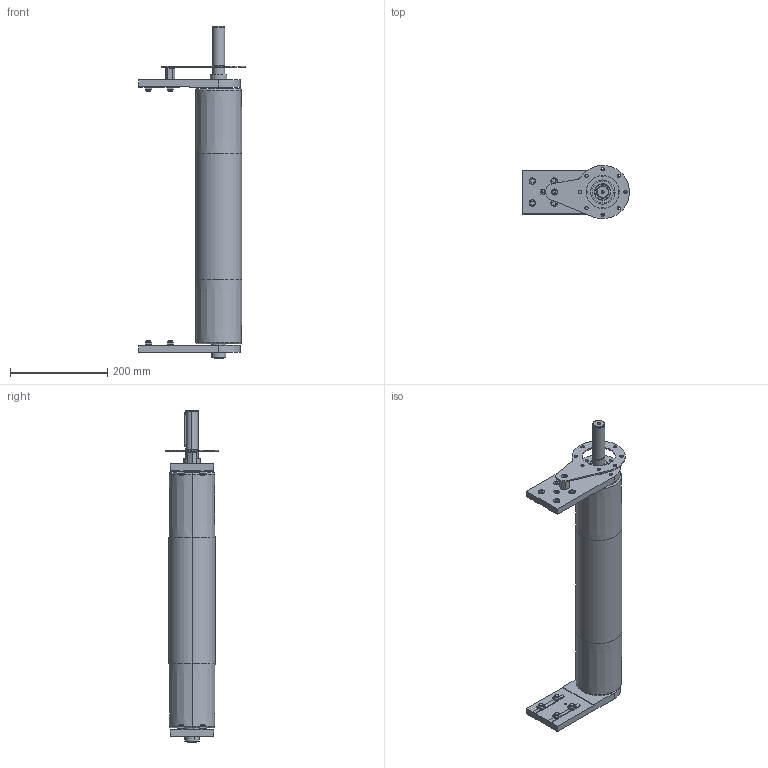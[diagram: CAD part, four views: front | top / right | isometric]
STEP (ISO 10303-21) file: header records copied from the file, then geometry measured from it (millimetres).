
FILE_DESCRIPTION (( 'STEP AP203' ), '1' );
FILE_NAME ('084.095.KDC.49.500.STEP', '2019-07-30T07:23:23', ( '' ), ( '' ), 'SwSTEP 2.0', 'SolidWorks 2018', '' );
FILE_SCHEMA (( 'CONFIG_CONTROL_DESIGN' ));
Length unit declared in the file: millimetre
Products named in the file (15): 084.810.003; 084.816.108_084.816.108; 084.802.034_084.802.034; 084.808.006_084.808.002; Circlip DIN 471 - 30 x 1.5_Circlip DIN 471 - 30 x 1.5; 084.302.000 DADI ALUSIC 13x13_084.302.004; 084.802.019_084.802.019; 084.095.KDC.49.500; CHIAVETTE_A 8x7x70 UNI 6604-69; 084.808.004; 084.812.002; 084.808.007_084.808.007; 084.802.027; 084.812.003; 084.301.000 VITI ALUSIC_084.301.003
Assembly tree (30 placements, depth 2):
  084.095.KDC.49.500
    084.802.027
    084.808.004
    084.812.002
    084.802.034_084.802.034
    084.301.000 VITI ALUSIC_084.301.003  x8
    084.302.000 DADI ALUSIC 13x13_084.302.004  x8
    084.816.108_084.816.108
    084.812.003
    084.808.007_084.808.007
    084.808.006_084.808.002
    084.810.003  x2
    084.802.019_084.802.019
    CHIAVETTE_A 8x7x70 UNI 6604-69
    Circlip DIN 471 - 30 x 1.5_Circlip DIN 471 - 30 x 1.5  x2
Bounding box: 220 x 110 x 684.5 mm (x, y, z)
Volume: 1699110.1 mm3; surface area: 739424.6 mm2
Topology: 35 solids, 36 shells, 860 faces, 2154 edges, 1397 vertices
Faces by surface type: plane 359, cylinder 300, torus 76, cone 68, bspline 48, sphere 9
Entity records: 20490 total; most frequent: CARTESIAN_POINT 4166, DIRECTION 3087, ORIENTED_EDGE 2912, EDGE_CURVE 1456, AXIS2_PLACEMENT_3D 1217, VERTEX_POINT 946, EDGE_LOOP 692, CIRCLE 658
